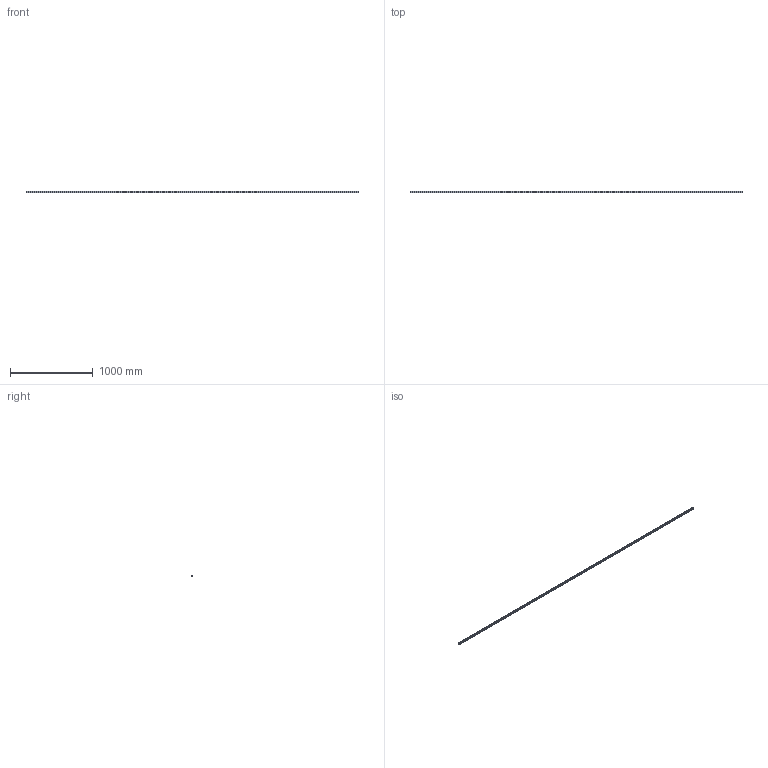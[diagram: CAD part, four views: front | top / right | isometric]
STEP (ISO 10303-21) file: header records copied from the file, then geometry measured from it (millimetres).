
FILE_DESCRIPTION (( 'STEP AP203' ), '1' );
FILE_NAME ('L1018.20R-4020.step', '2023-08-06T09:20:44', ( '' ), ( '' ), 'SwSTEP 2.0', 'SolidWorks 2019', '' );
FILE_SCHEMA (( 'CONFIG_CONTROL_DESIGN' ));
Length unit declared in the file: millimetre
Products named in the file (1): L1018.20R-4020
Bounding box: 4020 x 19.3 x 20 mm (x, y, z)
Volume: 1274855.6 mm3; surface area: 339907.6 mm2
Topology: 1 solids, 1 shells, 632 faces, 1421 edges, 791 vertices
Faces by surface type: cylinder 271, cone 268, plane 93
Entity records: 16676 total; most frequent: DIRECTION 3229, CARTESIAN_POINT 2711, ORIENTED_EDGE 2574, AXIS2_PLACEMENT_3D 1309, EDGE_CURVE 1287, VERTEX_POINT 791, EDGE_LOOP 766, CIRCLE 676
